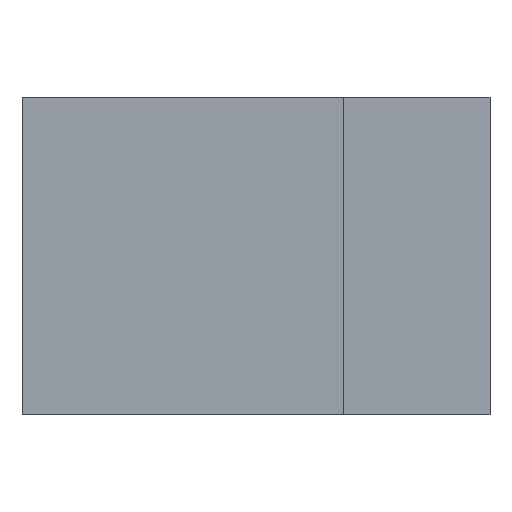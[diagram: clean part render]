
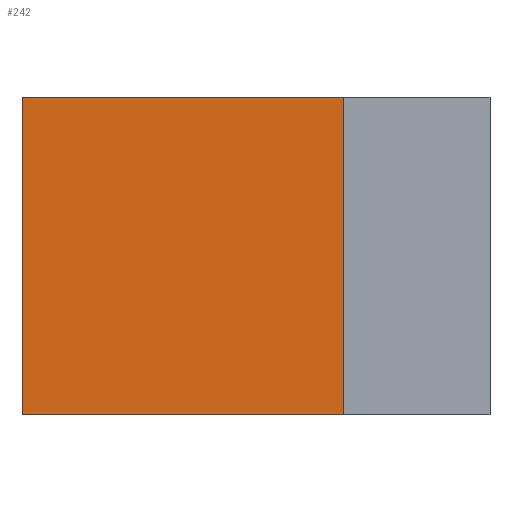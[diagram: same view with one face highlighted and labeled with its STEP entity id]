
A CAD part, left-side view. The second image highlights one B-rep face of the part: STEP entity #242.
In plain terms, the highlighted planar face has unit normal (-1, 0, 0).
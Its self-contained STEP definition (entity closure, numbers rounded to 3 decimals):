
#3 = ORIENTED_EDGE ( 'NONE', *, *, #190, .F. ) ;
#12 = VERTEX_POINT ( 'NONE', #460 ) ;
#13 = FACE_OUTER_BOUND ( 'NONE', #203, .T. ) ;
#28 = EDGE_CURVE ( 'NONE', #76, #12, #511, .T. ) ;
#41 = ORIENTED_EDGE ( 'NONE', *, *, #365, .T. ) ;
#44 = DIRECTION ( 'NONE',  ( 0., 1., 0. ) ) ;
#76 = VERTEX_POINT ( 'NONE', #161 ) ;
#91 = LINE ( 'NONE', #253, #271 ) ;
#93 = VERTEX_POINT ( 'NONE', #533 ) ;
#136 = LINE ( 'NONE', #469, #440 ) ;
#154 = VERTEX_POINT ( 'NONE', #232 ) ;
#161 = CARTESIAN_POINT ( 'NONE',  ( -22.3, 0., -16.3 ) ) ;
#178 = PLANE ( 'NONE',  #418 ) ;
#190 = EDGE_CURVE ( 'NONE', #93, #154, #241, .T. ) ;
#203 = EDGE_LOOP ( 'NONE', ( #3, #535, #501, #41 ) ) ;
#214 = DIRECTION ( 'NONE',  ( 0., 1., 0. ) ) ;
#232 = CARTESIAN_POINT ( 'NONE',  ( -22.3, 33., 16.3 ) ) ;
#241 = LINE ( 'NONE', #367, #265 ) ;
#242 = ADVANCED_FACE ( 'NONE', ( #13 ), #178, .T. ) ;
#253 = CARTESIAN_POINT ( 'NONE',  ( -22.3, 0., 16.3 ) ) ;
#265 = VECTOR ( 'NONE', #414, 1000. ) ;
#271 = VECTOR ( 'NONE', #44, 1000. ) ;
#301 = DIRECTION ( 'NONE',  ( 0., 0., 1. ) ) ;
#303 = CARTESIAN_POINT ( 'NONE',  ( -22.3, 0., -16.3 ) ) ;
#343 = CARTESIAN_POINT ( 'NONE',  ( -22.3, 0., -16.3 ) ) ;
#358 = EDGE_CURVE ( 'NONE', #76, #93, #136, .T. ) ;
#360 = VECTOR ( 'NONE', #301, 1000. ) ;
#365 = EDGE_CURVE ( 'NONE', #12, #154, #91, .T. ) ;
#367 = CARTESIAN_POINT ( 'NONE',  ( -22.3, 33., -16.3 ) ) ;
#414 = DIRECTION ( 'NONE',  ( 0., 0., 1. ) ) ;
#418 = AXIS2_PLACEMENT_3D ( 'NONE', #303, #512, #509 ) ;
#440 = VECTOR ( 'NONE', #214, 1000. ) ;
#460 = CARTESIAN_POINT ( 'NONE',  ( -22.3, 0., 16.3 ) ) ;
#469 = CARTESIAN_POINT ( 'NONE',  ( -22.3, 0., -16.3 ) ) ;
#501 = ORIENTED_EDGE ( 'NONE', *, *, #28, .T. ) ;
#509 = DIRECTION ( 'NONE',  ( 0., 0., 1. ) ) ;
#511 = LINE ( 'NONE', #343, #360 ) ;
#512 = DIRECTION ( 'NONE',  ( -1., 0., 0. ) ) ;
#533 = CARTESIAN_POINT ( 'NONE',  ( -22.3, 33., -16.3 ) ) ;
#535 = ORIENTED_EDGE ( 'NONE', *, *, #358, .F. ) ;
